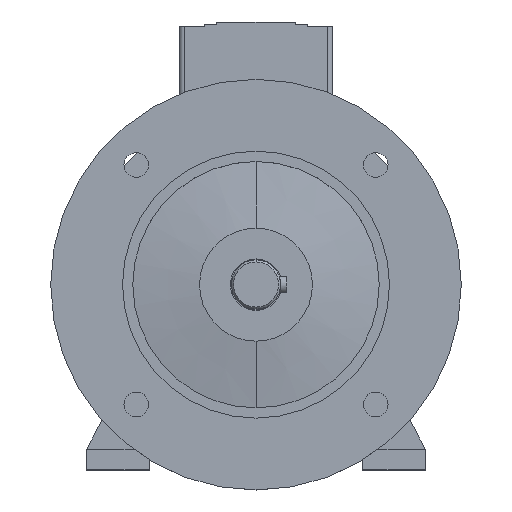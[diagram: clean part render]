
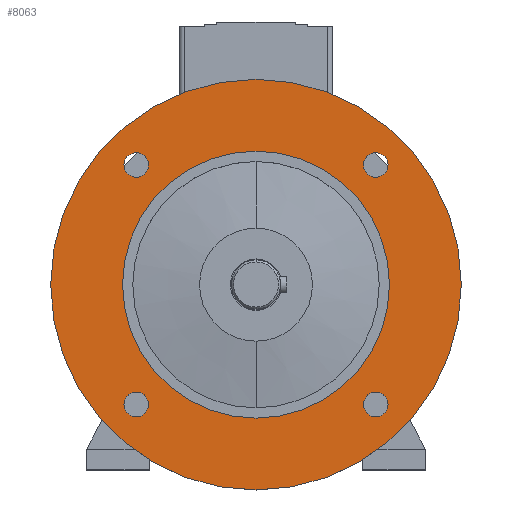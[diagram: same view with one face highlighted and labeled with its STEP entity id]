
A CAD part, top view. The second image highlights one B-rep face of the part: STEP entity #8063.
In plain terms, the highlighted planar face has unit normal (0, 0, 1).
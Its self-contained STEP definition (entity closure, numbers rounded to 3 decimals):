
#1231=CARTESIAN_POINT('',(-58.336,58.336,31.5));
#1232=DIRECTION('',(0.,0.,-1.));
#1233=DIRECTION('',(-1.,0.,0.));
#1234=AXIS2_PLACEMENT_3D('',#1231,#1232,#1233);
#1236=CARTESIAN_POINT('',(-58.336,58.336,31.5));
#1237=DIRECTION('',(0.,0.,-1.));
#1238=DIRECTION('',(1.,0.,0.));
#1239=AXIS2_PLACEMENT_3D('',#1236,#1237,#1238);
#1241=CARTESIAN_POINT('',(-58.336,-58.336,31.5));
#1242=DIRECTION('',(0.,0.,-1.));
#1243=DIRECTION('',(-1.,0.,0.));
#1244=AXIS2_PLACEMENT_3D('',#1241,#1242,#1243);
#1246=CARTESIAN_POINT('',(-58.336,-58.336,31.5));
#1247=DIRECTION('',(0.,0.,-1.));
#1248=DIRECTION('',(1.,0.,0.));
#1249=AXIS2_PLACEMENT_3D('',#1246,#1247,#1248);
#1251=CARTESIAN_POINT('',(58.336,-58.336,31.5));
#1252=DIRECTION('',(0.,0.,-1.));
#1253=DIRECTION('',(-1.,0.,0.));
#1254=AXIS2_PLACEMENT_3D('',#1251,#1252,#1253);
#1256=CARTESIAN_POINT('',(58.336,-58.336,31.5));
#1257=DIRECTION('',(0.,0.,-1.));
#1258=DIRECTION('',(1.,0.,0.));
#1259=AXIS2_PLACEMENT_3D('',#1256,#1257,#1258);
#1261=CARTESIAN_POINT('',(0.,0.,31.5));
#1262=DIRECTION('',(0.,0.,1.));
#1263=DIRECTION('',(0.,1.,0.));
#1264=AXIS2_PLACEMENT_3D('',#1261,#1262,#1263);
#1266=CARTESIAN_POINT('',(0.,0.,31.5));
#1267=DIRECTION('',(0.,0.,-1.));
#1268=DIRECTION('',(0.,1.,0.));
#1269=AXIS2_PLACEMENT_3D('',#1266,#1267,#1268);
#1271=CARTESIAN_POINT('',(58.336,58.336,31.5));
#1272=DIRECTION('',(0.,0.,-1.));
#1273=DIRECTION('',(-1.,0.,0.));
#1274=AXIS2_PLACEMENT_3D('',#1271,#1272,#1273);
#1276=CARTESIAN_POINT('',(58.336,58.336,31.5));
#1277=DIRECTION('',(0.,0.,-1.));
#1278=DIRECTION('',(1.,0.,0.));
#1279=AXIS2_PLACEMENT_3D('',#1276,#1277,#1278);
#1301=CARTESIAN_POINT('',(0.,0.,31.5));
#1302=DIRECTION('',(0.,0.,-1.));
#1303=DIRECTION('',(0.,1.,0.));
#1304=AXIS2_PLACEMENT_3D('',#1301,#1302,#1303);
#1314=CARTESIAN_POINT('',(0.,0.,31.5));
#1315=DIRECTION('',(0.,0.,1.));
#1316=DIRECTION('',(0.,1.,0.));
#1317=AXIS2_PLACEMENT_3D('',#1314,#1315,#1316);
#4799=CARTESIAN_POINT('',(0.,100.,31.5));
#4801=VERTEX_POINT('',#4799);
#4802=CARTESIAN_POINT('',(0.,65.,31.5));
#4804=VERTEX_POINT('',#4802);
#4807=CARTESIAN_POINT('',(0.,-100.,31.5));
#4809=VERTEX_POINT('',#4807);
#4810=CARTESIAN_POINT('',(0.,-65.,31.5));
#4812=VERTEX_POINT('',#4810);
#4818=CARTESIAN_POINT('',(52.336,58.336,31.5));
#4819=CARTESIAN_POINT('',(64.336,58.336,31.5));
#4820=VERTEX_POINT('',#4818);
#4821=VERTEX_POINT('',#4819);
#4826=CARTESIAN_POINT('',(52.336,-58.336,31.5));
#4827=CARTESIAN_POINT('',(64.336,-58.336,31.5));
#4828=VERTEX_POINT('',#4826);
#4829=VERTEX_POINT('',#4827);
#4834=CARTESIAN_POINT('',(-64.336,-58.336,31.5));
#4835=CARTESIAN_POINT('',(-52.336,-58.336,31.5));
#4836=VERTEX_POINT('',#4834);
#4837=VERTEX_POINT('',#4835);
#4842=CARTESIAN_POINT('',(-64.336,58.336,31.5));
#4843=CARTESIAN_POINT('',(-52.336,58.336,31.5));
#4844=VERTEX_POINT('',#4842);
#4845=VERTEX_POINT('',#4843);
#8023=CARTESIAN_POINT('',(0.,0.,31.5));
#8024=DIRECTION('',(0.,0.,-1.));
#8025=DIRECTION('',(0.,-1.,0.));
#8026=AXIS2_PLACEMENT_3D('',#8023,#8024,#8025);
#8027=PLANE('',#8026);
#8029=ORIENTED_EDGE('',*,*,#8028,.F.);
#8031=ORIENTED_EDGE('',*,*,#8030,.T.);
#8032=EDGE_LOOP('',(#8029,#8031));
#8033=FACE_OUTER_BOUND('',#8032,.F.);
#8034=ORIENTED_EDGE('',*,*,#8013,.F.);
#8036=ORIENTED_EDGE('',*,*,#8035,.F.);
#8037=EDGE_LOOP('',(#8034,#8036));
#8038=FACE_BOUND('',#8037,.F.);
#8040=ORIENTED_EDGE('',*,*,#8039,.F.);
#8042=ORIENTED_EDGE('',*,*,#8041,.F.);
#8043=EDGE_LOOP('',(#8040,#8042));
#8044=FACE_BOUND('',#8043,.F.);
#8046=ORIENTED_EDGE('',*,*,#8045,.F.);
#8048=ORIENTED_EDGE('',*,*,#8047,.F.);
#8049=EDGE_LOOP('',(#8046,#8048));
#8050=FACE_BOUND('',#8049,.F.);
#8052=ORIENTED_EDGE('',*,*,#8051,.F.);
#8054=ORIENTED_EDGE('',*,*,#8053,.T.);
#8055=EDGE_LOOP('',(#8052,#8054));
#8056=FACE_BOUND('',#8055,.F.);
#8058=ORIENTED_EDGE('',*,*,#8057,.F.);
#8060=ORIENTED_EDGE('',*,*,#8059,.F.);
#8061=EDGE_LOOP('',(#8058,#8060));
#8062=FACE_BOUND('',#8061,.F.);
#8063=ADVANCED_FACE('',(#8033,#8038,#8044,#8050,#8056,#8062),#8027,.F.);
#1235=CIRCLE('',#1234,6.);
#1240=CIRCLE('',#1239,6.);
#1245=CIRCLE('',#1244,6.);
#1250=CIRCLE('',#1249,6.);
#1255=CIRCLE('',#1254,6.);
#1260=CIRCLE('',#1259,6.);
#1265=CIRCLE('',#1264,100.);
#1270=CIRCLE('',#1269,100.);
#1275=CIRCLE('',#1274,6.);
#1280=CIRCLE('',#1279,6.);
#1305=CIRCLE('',#1304,65.);
#1318=CIRCLE('',#1317,65.);
#8013=EDGE_CURVE('',#4844,#4845,#1235,.T.);
#8028=EDGE_CURVE('',#4801,#4809,#1265,.T.);
#8030=EDGE_CURVE('',#4801,#4809,#1270,.T.);
#8035=EDGE_CURVE('',#4845,#4844,#1240,.T.);
#8039=EDGE_CURVE('',#4836,#4837,#1245,.T.);
#8041=EDGE_CURVE('',#4837,#4836,#1250,.T.);
#8045=EDGE_CURVE('',#4828,#4829,#1255,.T.);
#8047=EDGE_CURVE('',#4829,#4828,#1260,.T.);
#8051=EDGE_CURVE('',#4804,#4812,#1305,.T.);
#8053=EDGE_CURVE('',#4804,#4812,#1318,.T.);
#8057=EDGE_CURVE('',#4820,#4821,#1275,.T.);
#8059=EDGE_CURVE('',#4821,#4820,#1280,.T.);
